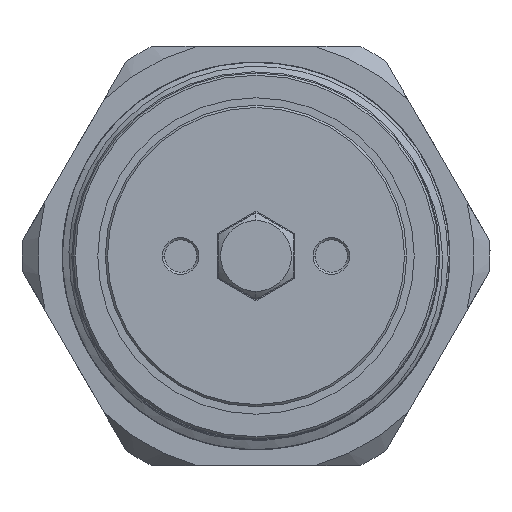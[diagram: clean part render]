
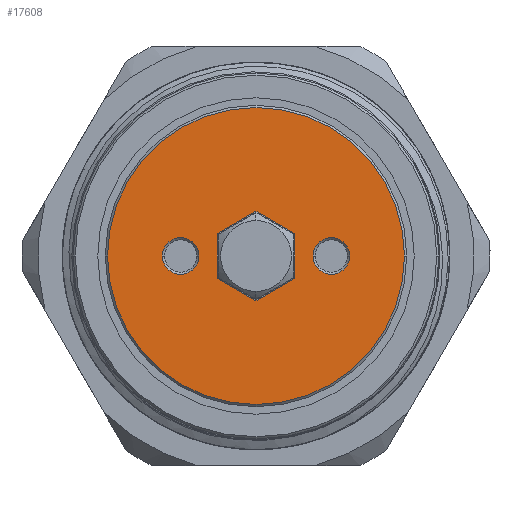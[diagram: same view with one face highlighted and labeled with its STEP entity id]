
A CAD part, front view. The second image highlights one B-rep face of the part: STEP entity #17608.
In plain terms, the highlighted planar face has unit normal (0, -1, 0).
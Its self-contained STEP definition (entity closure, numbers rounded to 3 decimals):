
#17041=CARTESIAN_POINT('',(-7.,0.,0.));
#17042=DIRECTION('',(0.,1.,0.));
#17043=DIRECTION('',(1.,0.,0.));
#17044=AXIS2_PLACEMENT_3D('',#17041,#17042,#17043);
#17046=CARTESIAN_POINT('',(-7.,0.,0.));
#17047=DIRECTION('',(0.,1.,0.));
#17048=DIRECTION('',(-1.,0.,0.));
#17049=AXIS2_PLACEMENT_3D('',#17046,#17047,#17048);
#17051=CARTESIAN_POINT('',(7.,0.,0.));
#17052=DIRECTION('',(0.,1.,0.));
#17053=DIRECTION('',(1.,0.,0.));
#17054=AXIS2_PLACEMENT_3D('',#17051,#17052,#17053);
#17056=CARTESIAN_POINT('',(7.,0.,0.));
#17057=DIRECTION('',(0.,1.,0.));
#17058=DIRECTION('',(-1.,0.,0.));
#17059=AXIS2_PLACEMENT_3D('',#17056,#17057,#17058);
#17061=DIRECTION('',(0.,0.,-1.));
#17062=VECTOR('',#17061,4.157);
#17063=CARTESIAN_POINT('',(-3.6,0.,2.078));
#17064=LINE('',#17063,#17062);
#17065=DIRECTION('',(0.866,0.,-0.5));
#17066=VECTOR('',#17065,4.157);
#17067=CARTESIAN_POINT('',(-3.6,0.,-2.078));
#17068=LINE('',#17067,#17066);
#17069=DIRECTION('',(0.866,0.,0.5));
#17070=VECTOR('',#17069,4.157);
#17071=CARTESIAN_POINT('',(0.,0.,-4.157));
#17072=LINE('',#17071,#17070);
#17073=DIRECTION('',(0.,0.,1.));
#17074=VECTOR('',#17073,4.157);
#17075=CARTESIAN_POINT('',(3.6,0.,-2.078));
#17076=LINE('',#17075,#17074);
#17077=DIRECTION('',(-0.866,0.,0.5));
#17078=VECTOR('',#17077,4.157);
#17079=CARTESIAN_POINT('',(3.6,0.,2.078));
#17080=LINE('',#17079,#17078);
#17081=DIRECTION('',(-0.866,0.,-0.5));
#17082=VECTOR('',#17081,4.157);
#17083=CARTESIAN_POINT('',(0.,0.,4.157));
#17084=LINE('',#17083,#17082);
#17085=CARTESIAN_POINT('',(0.,0.,0.));
#17086=DIRECTION('',(0.,-1.,0.));
#17087=DIRECTION('',(1.,0.,0.));
#17088=AXIS2_PLACEMENT_3D('',#17085,#17086,#17087);
#17090=CARTESIAN_POINT('',(0.,0.,0.));
#17091=DIRECTION('',(0.,-1.,0.));
#17092=DIRECTION('',(-1.,0.,0.));
#17093=AXIS2_PLACEMENT_3D('',#17090,#17091,#17092);
#17483=CARTESIAN_POINT('',(-5.3,0.,0.));
#17484=CARTESIAN_POINT('',(-8.7,0.,0.));
#17485=VERTEX_POINT('',#17483);
#17486=VERTEX_POINT('',#17484);
#17499=CARTESIAN_POINT('',(8.7,0.,0.));
#17500=CARTESIAN_POINT('',(5.3,0.,0.));
#17501=VERTEX_POINT('',#17499);
#17502=VERTEX_POINT('',#17500);
#17527=CARTESIAN_POINT('',(-3.6,0.,2.078));
#17528=CARTESIAN_POINT('',(-3.6,0.,-2.078));
#17529=VERTEX_POINT('',#17527);
#17530=VERTEX_POINT('',#17528);
#17533=CARTESIAN_POINT('',(0.,0.,4.157));
#17534=VERTEX_POINT('',#17533);
#17535=CARTESIAN_POINT('',(3.6,0.,2.078));
#17536=VERTEX_POINT('',#17535);
#17539=CARTESIAN_POINT('',(3.6,0.,-2.078));
#17540=VERTEX_POINT('',#17539);
#17545=CARTESIAN_POINT('',(0.,0.,-4.157));
#17546=VERTEX_POINT('',#17545);
#17555=CARTESIAN_POINT('',(13.8,0.,0.));
#17556=CARTESIAN_POINT('',(-13.8,0.,0.));
#17557=VERTEX_POINT('',#17555);
#17558=VERTEX_POINT('',#17556);
#17571=CARTESIAN_POINT('',(0.,0.,0.));
#17572=DIRECTION('',(0.,1.,0.));
#17573=DIRECTION('',(1.,0.,0.));
#17574=AXIS2_PLACEMENT_3D('',#17571,#17572,#17573);
#17575=PLANE('',#17574);
#17577=ORIENTED_EDGE('',*,*,#17576,.F.);
#17579=ORIENTED_EDGE('',*,*,#17578,.F.);
#17580=EDGE_LOOP('',(#17577,#17579));
#17581=FACE_OUTER_BOUND('',#17580,.F.);
#17583=ORIENTED_EDGE('',*,*,#17582,.F.);
#17585=ORIENTED_EDGE('',*,*,#17584,.F.);
#17586=EDGE_LOOP('',(#17583,#17585));
#17587=FACE_BOUND('',#17586,.F.);
#17589=ORIENTED_EDGE('',*,*,#17588,.T.);
#17591=ORIENTED_EDGE('',*,*,#17590,.T.);
#17593=ORIENTED_EDGE('',*,*,#17592,.T.);
#17595=ORIENTED_EDGE('',*,*,#17594,.T.);
#17597=ORIENTED_EDGE('',*,*,#17596,.T.);
#17599=ORIENTED_EDGE('',*,*,#17598,.T.);
#17600=EDGE_LOOP('',(#17589,#17591,#17593,#17595,#17597,#17599));
#17601=FACE_BOUND('',#17600,.F.);
#17603=ORIENTED_EDGE('',*,*,#17602,.F.);
#17605=ORIENTED_EDGE('',*,*,#17604,.F.);
#17606=EDGE_LOOP('',(#17603,#17605));
#17607=FACE_BOUND('',#17606,.F.);
#17608=ADVANCED_FACE('',(#17581,#17587,#17601,#17607),#17575,.F.);
#17045=CIRCLE('',#17044,1.7);
#17050=CIRCLE('',#17049,1.7);
#17055=CIRCLE('',#17054,1.7);
#17060=CIRCLE('',#17059,1.7);
#17089=CIRCLE('',#17088,13.8);
#17094=CIRCLE('',#17093,13.8);
#17576=EDGE_CURVE('',#17557,#17558,#17089,.T.);
#17578=EDGE_CURVE('',#17558,#17557,#17094,.T.);
#17582=EDGE_CURVE('',#17501,#17502,#17055,.T.);
#17584=EDGE_CURVE('',#17502,#17501,#17060,.T.);
#17588=EDGE_CURVE('',#17529,#17530,#17064,.T.);
#17590=EDGE_CURVE('',#17530,#17546,#17068,.T.);
#17592=EDGE_CURVE('',#17546,#17540,#17072,.T.);
#17594=EDGE_CURVE('',#17540,#17536,#17076,.T.);
#17596=EDGE_CURVE('',#17536,#17534,#17080,.T.);
#17598=EDGE_CURVE('',#17534,#17529,#17084,.T.);
#17602=EDGE_CURVE('',#17485,#17486,#17045,.T.);
#17604=EDGE_CURVE('',#17486,#17485,#17050,.T.);
